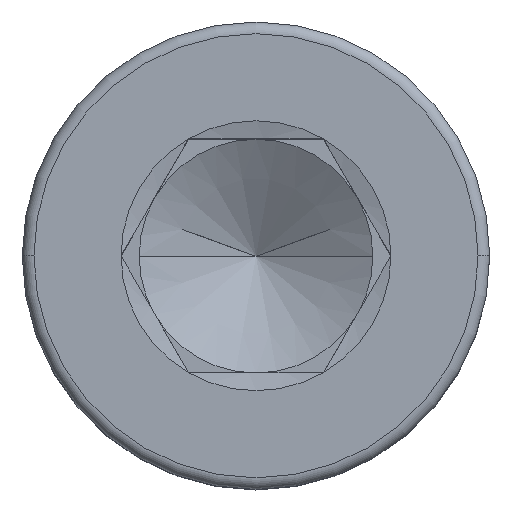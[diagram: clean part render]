
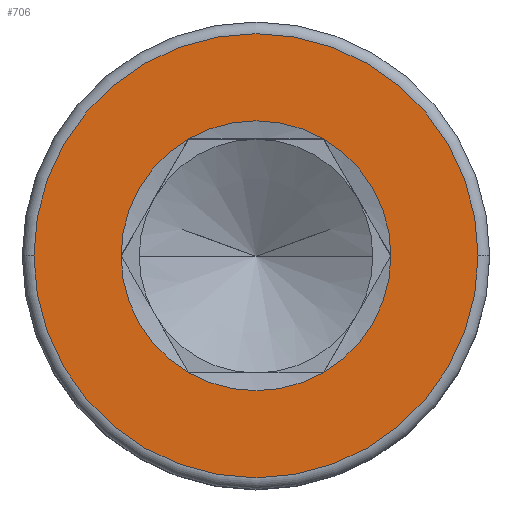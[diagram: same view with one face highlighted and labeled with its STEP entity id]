
A CAD part, top view. The second image highlights one B-rep face of the part: STEP entity #706.
In plain terms, the highlighted planar face has unit normal (0, 0, 1).
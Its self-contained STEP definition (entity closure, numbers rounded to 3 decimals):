
#21 = VERTEX_POINT ( 'NONE', #1501 ) ;
#41 = CARTESIAN_POINT ( 'NONE',  ( 0., 0., 6. ) ) ;
#46 = CIRCLE ( 'NONE', #1348, 2.887 ) ;
#51 = AXIS2_PLACEMENT_3D ( 'NONE', #780, #260, #619 ) ;
#109 = CARTESIAN_POINT ( 'NONE',  ( 0., 0., 6. ) ) ;
#136 = EDGE_CURVE ( 'NONE', #790, #1037, #164, .T. ) ;
#137 = CARTESIAN_POINT ( 'NONE',  ( 4.75, 0., 6. ) ) ;
#162 = FACE_BOUND ( 'NONE', #1071, .T. ) ;
#164 = CIRCLE ( 'NONE', #904, 2.887 ) ;
#198 = CARTESIAN_POINT ( 'NONE',  ( 1.443, -2.5, 6. ) ) ;
#215 = EDGE_CURVE ( 'NONE', #225, #21, #46, .T. ) ;
#225 = VERTEX_POINT ( 'NONE', #455 ) ;
#260 = DIRECTION ( 'NONE',  ( 0., 0., 1. ) ) ;
#279 = DIRECTION ( 'NONE',  ( 1., 0., 0. ) ) ;
#283 = DIRECTION ( 'NONE',  ( 1., 0., 0. ) ) ;
#354 = ORIENTED_EDGE ( 'NONE', *, *, #1259, .T. ) ;
#401 = ORIENTED_EDGE ( 'NONE', *, *, #760, .F. ) ;
#422 = DIRECTION ( 'NONE',  ( 0., 0., 1. ) ) ;
#455 = CARTESIAN_POINT ( 'NONE',  ( 2.887, 0., 6. ) ) ;
#478 = DIRECTION ( 'NONE',  ( 1., 0., 0. ) ) ;
#525 = VERTEX_POINT ( 'NONE', #137 ) ;
#541 = CARTESIAN_POINT ( 'NONE',  ( 0., 0., 6. ) ) ;
#618 = DIRECTION ( 'NONE',  ( 0., 0., 1. ) ) ;
#619 = DIRECTION ( 'NONE',  ( 1., 0., 0. ) ) ;
#650 = CARTESIAN_POINT ( 'NONE',  ( -1.443, -2.5, 6. ) ) ;
#679 = DIRECTION ( 'NONE',  ( 1., 0., 0. ) ) ;
#685 = CARTESIAN_POINT ( 'NONE',  ( -2.887, 0., 6. ) ) ;
#699 = CARTESIAN_POINT ( 'NONE',  ( 0., 0., 6. ) ) ;
#706 = ADVANCED_FACE ( 'NONE', ( #875, #162 ), #1223, .T. ) ;
#711 = CIRCLE ( 'NONE', #888, 2.887 ) ;
#713 = AXIS2_PLACEMENT_3D ( 'NONE', #916, #1449, #283 ) ;
#724 = VERTEX_POINT ( 'NONE', #1097 ) ;
#736 = CARTESIAN_POINT ( 'NONE',  ( 0., 0., 6. ) ) ;
#750 = CIRCLE ( 'NONE', #1629, 4.75 ) ;
#760 = EDGE_CURVE ( 'NONE', #1037, #225, #1601, .T. ) ;
#780 = CARTESIAN_POINT ( 'NONE',  ( 0., 0., 6. ) ) ;
#790 = VERTEX_POINT ( 'NONE', #650 ) ;
#792 = CARTESIAN_POINT ( 'NONE',  ( 0., 0., 6. ) ) ;
#812 = DIRECTION ( 'NONE',  ( 1., 0., 0. ) ) ;
#830 = ORIENTED_EDGE ( 'NONE', *, *, #1015, .F. ) ;
#851 = DIRECTION ( 'NONE',  ( 1., 0., 0. ) ) ;
#859 = CIRCLE ( 'NONE', #1530, 2.887 ) ;
#875 = FACE_OUTER_BOUND ( 'NONE', #1266, .T. ) ;
#877 = CARTESIAN_POINT ( 'NONE',  ( 0., 0., 6. ) ) ;
#888 = AXIS2_PLACEMENT_3D ( 'NONE', #792, #1485, #812 ) ;
#904 = AXIS2_PLACEMENT_3D ( 'NONE', #109, #618, #1164 ) ;
#916 = CARTESIAN_POINT ( 'NONE',  ( 0., 0., 6. ) ) ;
#971 = DIRECTION ( 'NONE',  ( 0., 0., 1. ) ) ;
#1015 = EDGE_CURVE ( 'NONE', #1551, #1390, #859, .T. ) ;
#1033 = CIRCLE ( 'NONE', #1295, 2.887 ) ;
#1036 = EDGE_CURVE ( 'NONE', #525, #724, #750, .T. ) ;
#1037 = VERTEX_POINT ( 'NONE', #198 ) ;
#1071 = EDGE_LOOP ( 'NONE', ( #1436, #401, #1228, #1487, #830, #1690 ) ) ;
#1094 = EDGE_CURVE ( 'NONE', #21, #1551, #1033, .T. ) ;
#1097 = CARTESIAN_POINT ( 'NONE',  ( -4.75, 0., 6. ) ) ;
#1137 = DIRECTION ( 'NONE',  ( 0., 0., 1. ) ) ;
#1164 = DIRECTION ( 'NONE',  ( 1., 0., 0. ) ) ;
#1207 = AXIS2_PLACEMENT_3D ( 'NONE', #41, #422, #679 ) ;
#1223 = PLANE ( 'NONE',  #1207 ) ;
#1228 = ORIENTED_EDGE ( 'NONE', *, *, #136, .F. ) ;
#1259 = EDGE_CURVE ( 'NONE', #724, #525, #1265, .T. ) ;
#1265 = CIRCLE ( 'NONE', #51, 4.75 ) ;
#1266 = EDGE_LOOP ( 'NONE', ( #1686, #354 ) ) ;
#1280 = CARTESIAN_POINT ( 'NONE',  ( -1.443, 2.5, 6. ) ) ;
#1295 = AXIS2_PLACEMENT_3D ( 'NONE', #877, #1391, #478 ) ;
#1348 = AXIS2_PLACEMENT_3D ( 'NONE', #699, #971, #851 ) ;
#1390 = VERTEX_POINT ( 'NONE', #685 ) ;
#1391 = DIRECTION ( 'NONE',  ( 0., 0., 1. ) ) ;
#1436 = ORIENTED_EDGE ( 'NONE', *, *, #215, .F. ) ;
#1449 = DIRECTION ( 'NONE',  ( 0., 0., 1. ) ) ;
#1463 = EDGE_CURVE ( 'NONE', #1390, #790, #711, .T. ) ;
#1485 = DIRECTION ( 'NONE',  ( 0., 0., 1. ) ) ;
#1487 = ORIENTED_EDGE ( 'NONE', *, *, #1463, .F. ) ;
#1501 = CARTESIAN_POINT ( 'NONE',  ( 1.443, 2.5, 6. ) ) ;
#1530 = AXIS2_PLACEMENT_3D ( 'NONE', #736, #1137, #1538 ) ;
#1538 = DIRECTION ( 'NONE',  ( 1., 0., 0. ) ) ;
#1551 = VERTEX_POINT ( 'NONE', #1280 ) ;
#1601 = CIRCLE ( 'NONE', #713, 2.887 ) ;
#1609 = DIRECTION ( 'NONE',  ( 0., 0., 1. ) ) ;
#1629 = AXIS2_PLACEMENT_3D ( 'NONE', #541, #1609, #279 ) ;
#1686 = ORIENTED_EDGE ( 'NONE', *, *, #1036, .T. ) ;
#1690 = ORIENTED_EDGE ( 'NONE', *, *, #1094, .F. ) ;
